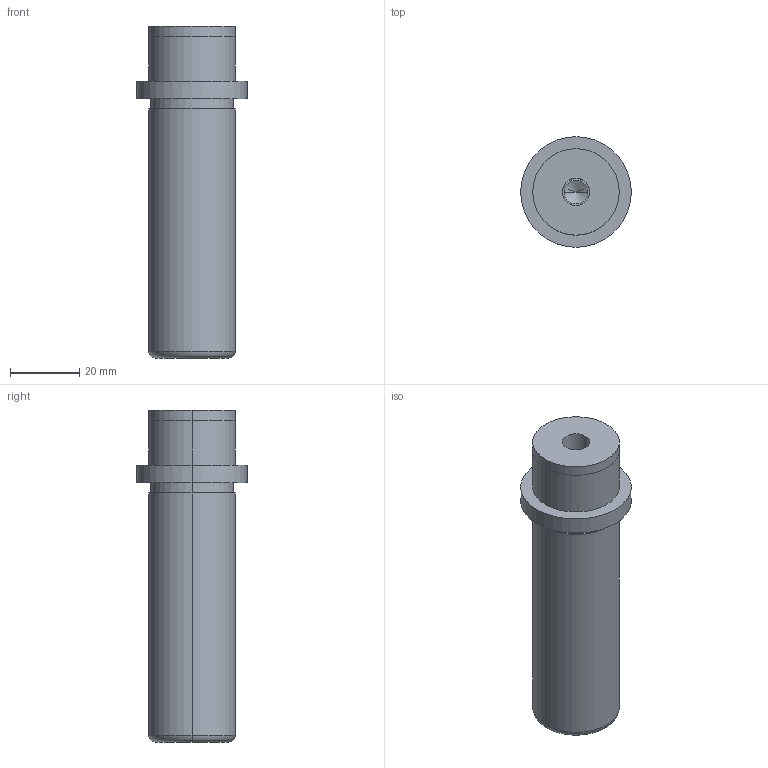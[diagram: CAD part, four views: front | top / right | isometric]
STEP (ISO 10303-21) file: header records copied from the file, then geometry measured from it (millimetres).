
FILE_DESCRIPTION(/* description */ (''),/* implementation_level */ '2;1');
FILE_NAME(/* name */ '3d_sgpw25-80_05242_r00.stp',/* time_stamp */ '2011-01-10T14:11:03+09:00',/* author */ ('MISUMI'),/* organization */ (''),/* preprocessor_version */ 'ST-DEVELOPER v11',/* originating_system */ 'UGS - NX 5.0',/* authorisation */ '');
FILE_SCHEMA (('CONFIG_CONTROL_DESIGN'));
Length unit declared in the file: millimetre
Products named in the file (1): 3d_sgpw25-80_05242_r00
Bounding box: 32 x 32 x 96 mm (x, y, z)
Volume: 46507.9 mm3; surface area: 10258.1 mm2
Topology: 1 solids, 1 shells, 31 faces, 64 edges, 38 vertices
Faces by surface type: cylinder 18, plane 7, cone 4, torus 2
Entity records: 890 total; most frequent: DIRECTION 162, CARTESIAN_POINT 130, ORIENTED_EDGE 120, AXIS2_PLACEMENT_3D 70, EDGE_CURVE 60, EDGE_LOOP 38, CIRCLE 38, VERTEX_POINT 38
